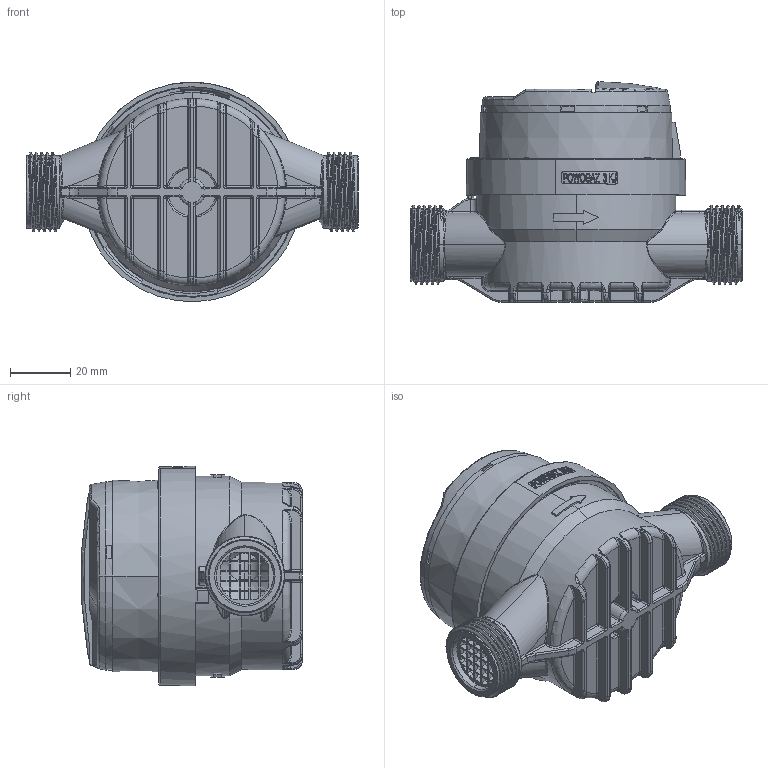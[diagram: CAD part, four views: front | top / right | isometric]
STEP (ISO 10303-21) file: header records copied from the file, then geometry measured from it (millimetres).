
FILE_DESCRIPTION (( 'STEP AP214' ), '1' );
FILE_NAME ('JS2,5-03.STEP', '2025-06-06T08:50:23', ( '' ), ( '' ), 'SwSTEP 2.0', 'SolidWorks 2019', '' );
FILE_SCHEMA (( 'AUTOMOTIVE_DESIGN' ));
Length unit declared in the file: millimetre
Products named in the file (1): JS2,5-03
Bounding box: 110 x 73.05 x 72.7 mm (x, y, z)
Volume: 214584.6 mm3; surface area: 53181.4 mm2
Topology: 5 solids, 7 shells, 1567 faces, 4123 edges, 2554 vertices
Faces by surface type: plane 607, cylinder 416, bspline 330, torus 97, cone 91, sphere 26
Entity records: 81504 total; most frequent: CARTESIAN_POINT 28195, ORIENTED_EDGE 8152, DIRECTION 6728, EDGE_CURVE 4076, VERTEX_POINT 2554, AXIS2_PLACEMENT_3D 2409, VECTOR 1910, LINE 1910
